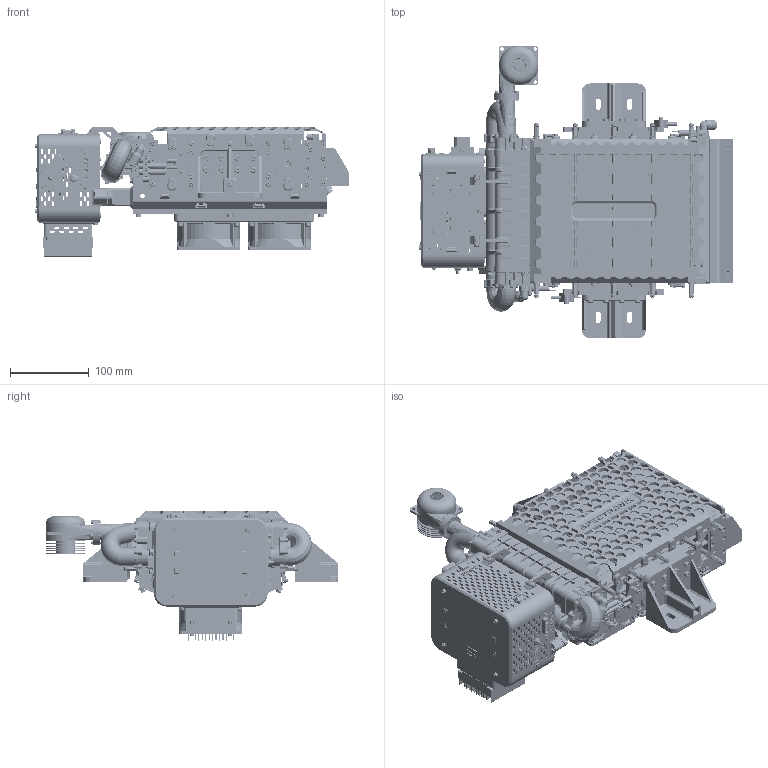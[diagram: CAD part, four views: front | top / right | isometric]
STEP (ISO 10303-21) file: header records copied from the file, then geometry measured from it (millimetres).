
FILE_DESCRIPTION (( 'STEP AP203' ), '1' );
FILE_NAME ('Protium 1000_G_30_Assembly_External_Dec 2023.STEP', '2024-04-09T05:08:28', ( '' ), ( '' ), 'SwSTEP 2.0', 'SolidWorks 2021', '' );
FILE_SCHEMA (( 'CONFIG_CONTROL_DESIGN' ));
Length unit declared in the file: millimetre
Products named in the file (78): Rocket Switch_PRASA1-16F-BB0BW; socket head cap screw_am_B18.3.1M - 4 x 0.7 x 12 Hex SHCS -- 12NHX; FEAXL Sealing plate v2; Manifold Purge solid ; XT90 Male; Pressure Sensor_MPX5100DP; FEAXL_Common_EP Cathode Ducting_Basic_Part A_Nov 2022; Standoff Nut_DB; 3D valve; FEAXL_FMS Housing Cover_A_Jan 2024; LED (5mm); socket head cap screw_am_B18.3.1M - 3 x 0.5 x 12 Hex SHCS -- 12NHX; FEAXL_Common_L Mounting Bracket_Basic_Jun 2022; M3 washer (OD9); FEAXL-EPA_20220103; D Sub Contact (Male)_09692817423; socket head cap screw_am_B18.3.1M - 2 x 0.4 x 6 Hex SHCS -- 6NHX; FEAXL_Common_Fan Casing Lock_Oct 2023; D Sub 7W2 (Female)_09692015072; XT90 Female; D Sub Contact (Female)_09691817423; FEAXL_Common_EP Casing_A_Oct 2023; 221mm Rod; FEAXL_G_30_Solid Stack; D Sub 2W2 (Female)_1727040042; socket head cap screw_am_B18.3.1M - 2.5 x 0.45 x 16 Hex SHCS -- 16NHX; FMS_FEAXL v1-4_Assembly_A_Jan 2024; FEAXL_v3_Mini End Plate_13062022; socket head cap screw_am_B18.3.1M - 4 x 0.7 x 10 Hex SHCS -- 10NHX; HFV_LHDX0536400B^LFMX0532750B 14v spike hold; FEAXL_G_30_Interface Casing_Oct 2023; FEAXL-EPC PURGE_20221117_Solid; FEAXL_Common_Cathode Inlet_2in 1 Straight_Dec 2022; Diode_STPS200170TV1Y; socket head cap screw_am_B18.3.1M - 2.5 x 0.45 x 10 Hex SHCS -- 10NHX; Micronel Radial Blower_U51DL-024KK-4; M3 Lock Nut; FEAXL_Common_EP Casing_B_Oct 2023; Heatsink; FEAXL_G_30_Exhaust Cover_Oct 2023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
Assembly tree (403 placements, depth 3):
  Protium 1000_G_30_Assembly_External_Dec 2023
    FMS_FEAXL v1-4_Assembly_A_Jan 2024
      FEAXL_FMS Housing_A_Jan 2024
      FEAXL_FMS Housing Cover_A_Jan 2024
      Common_LED Holder Housing_Jun 2022
      Common_STPS200170TV1Y_Diode Protective Cover_Jun 2022
      Common_6 Pin Molex_530470610_Housing
      Common_4 Pin Molex_530470410_Housing
      Rocket Switch_PRASA1-16F-BB0BW
      Header & Wire Housing Vertical 6P_530470610
      Header & Wire Housing Vertical 4P_530470410
      Diode_STPS200170TV1Y
      D Sub 17W2 (Male)_09693115172
      D Sub Contact (Male)_09692817423  x3
      D Sub 2W2 (Female)_1727040042
      D Sub Contact (Female)_09691817423  x3
      XT90 Female  x2
      XT90 Male
      LED (5mm)
      LED Mounting Clips (5mm)_C-174
      D Sub 7W2 (Female)_09692015072
      NQ90W90HGC26NRF-G
      Heatsink
      Pushbutton Switch_MP0016
      socket head cap screw_am_B18.3.1M - 3 x 0.5 x 10 Hex SHCS -- 10NHX  x6
      socket head cap screw_am_B18.3.1M - 4 x 0.7 x 10 Hex SHCS -- 10NHX  x2
      socket head cap screw_am_B18.3.1M - 2 x 0.4 x 6 Hex SHCS -- 6NHX  x4
      socket head cap screw_am_B18.3.1M - 3 x 0.5 x 12 Hex SHCS -- 12NHX  x4
      socket head cap screw_am_B18.3.1M - 2.5 x 0.45 x 10 Hex SHCS -- 10NHX  x4
      socket head cap screw_am_B18.3.1M - 2.5 x 0.45 x 12 Hex SHCS -- 12NHX  x3
      Standoff Nut_DB  x4
      Protium_Feather V1_2
    FEAXL-EPC_20220103
    FEAXL-EPA_20220103
    FEAXL_Common_EP Cathode Ducting_Basic_Part A_Nov 2022
    FEAXL_Common_EP Cathode Ducting_Basic_Part B_Nov 2022
    FEAXL_Common_Blower Ducting Locker_Jun 2022  x2
    FEAXL_Common_Cathode Inlet_2in 1 Straight_Dec 2022
    FEAXL_Common_Recirculate Ducting_July 2022
    FEAXL_G_30_Cathode Ducting_Solid_Nov 2022
    FEAXL_G_30_Fan Casing_Oct 2023
    FEAXL_Common_Fan Casing Lock_Oct 2023  x2
    FEAXL_Common_L Mounting Bracket_Basic_Jun 2022  x2
    Common_4 Pin Molex_530470410_Housing  x8
    FEAXL_Common_EP Casing_B_Oct 2023
    FEAXL_Common_EP Casing_A_Oct 2023
    3D valve
    FEAXL_G_30_Base Casing_Oct 2023
    FEAXL_G_30_Exhaust Cover_Oct 2023
    FEAXL_G_30_Interface Casing_Oct 2023
    FEAXL_G_30_Mask Cover_Oct 2023
    FEAXLv2 - Current collector  x2
    Header & Wire Housing Vertical 4P_530470410  x8
    SanAce_9HV_80x38_RBL  x2
      None_2
    HFV_LHDX0536400B^LFMX0532750B 14v spike hold  x5
    Pressure Sensor_MPX5100DP  x2
    D Sub 17W2 (Female)_09693015172
    D Sub Contact (Female)_09691817423  x2
    XT90 Female
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Bounding box: 398.5 x 370.6 x 163.75 mm (x, y, z)
Volume: 3473512.3 mm3; surface area: 1429229.9 mm2
Topology: 418 solids, 427 shells, 30282 faces, 78079 edges, 49445 vertices
Faces by surface type: plane 14913, cylinder 7121, cone 4608, bspline 2837, torus 706, sphere 97
Full cylindrical faces by diameter (mm): 0.4 x1, 1 x24, 1.15 x15, 1.2 x20, 1.4 x1, 1.5 x55, 1.6 x74, 1.814 x1, 1.9 x20, 1.904 x1, 1.927 x1, 1.953 x1, 1.968 x1, 1.979 x2, 1.981 x16, 2 x42, 2.1 x15, 2.4 x4, 2.5 x679, 2.6 x68, 2.7 x18, 2.769 x30, 3 x126, 3.023 x18, 3.1 x8, 3.12 x2, 3.2 x54, 3.3 x4, 3.4 x30, 3.5 x8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
Entity records: 717193 total; most frequent: CARTESIAN_POINT 231396, ORIENTED_EDGE 96314, DIRECTION 90956, EDGE_CURVE 48161, VERTEX_POINT 33064, AXIS2_PLACEMENT_3D 32566, EDGE_LOOP 26973, LINE 25824
